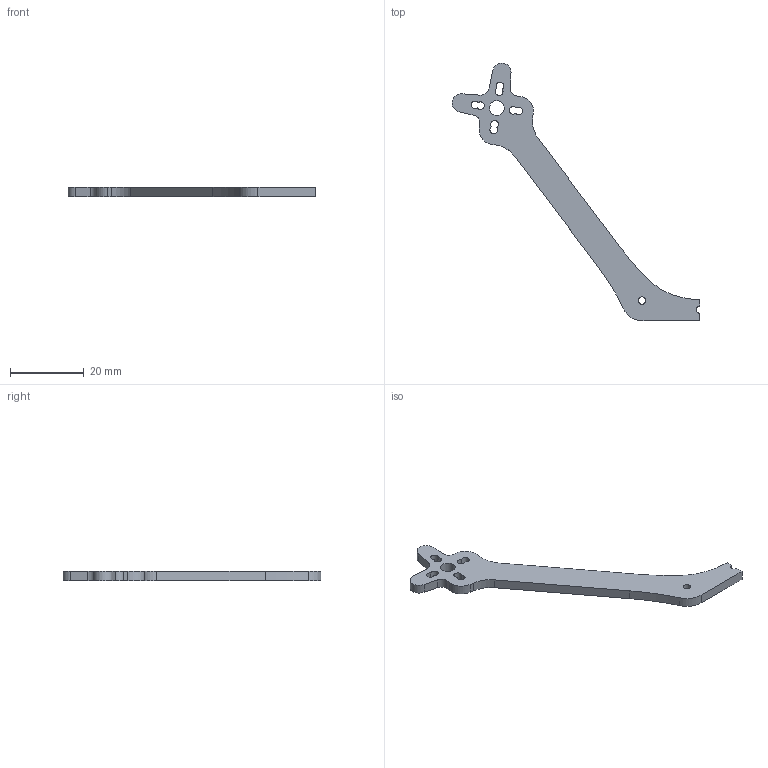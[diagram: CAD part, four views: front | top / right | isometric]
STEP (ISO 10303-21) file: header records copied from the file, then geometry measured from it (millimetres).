
FILE_DESCRIPTION(/* description */ (''),/* implementation_level */ '2;1');
FILE_NAME(/* name */ 'GoFlyPro - 4-Zoll - Arm - 9and12mm.step',/* time_stamp */ '2026-07-04T12:55:03+02:00',/* author */ (''),/* organization */ (''),/* preprocessor_version */ 'ST-DEVELOPER v20.1',/* originating_system */ 'Autodesk Translation Framework v15.8.0.0',/* authorisation */ '');
FILE_SCHEMA (('AUTOMOTIVE_DESIGN { 1 0 10303 214 3 1 1 }'));
Length unit declared in the file: millimetre
Products named in the file (1): GoFlyPro - 4-Zoll - Arm - 9and12mm
Bounding box: 67.33 x 69.97 x 2.6 mm (x, y, z)
Volume: 2074 mm3; surface area: 2308.6 mm2
Topology: 1 solids, 1 shells, 39 faces, 111 edges, 74 vertices
Faces by surface type: cylinder 21, plane 15, bspline 3
Full cylindrical faces by diameter (mm): 2 x1, 4 x1
Entity records: 1360 total; most frequent: CARTESIAN_POINT 240, DIRECTION 233, ORIENTED_EDGE 222, EDGE_CURVE 111, AXIS2_PLACEMENT_3D 85, VERTEX_POINT 74, LINE 63, VECTOR 63
